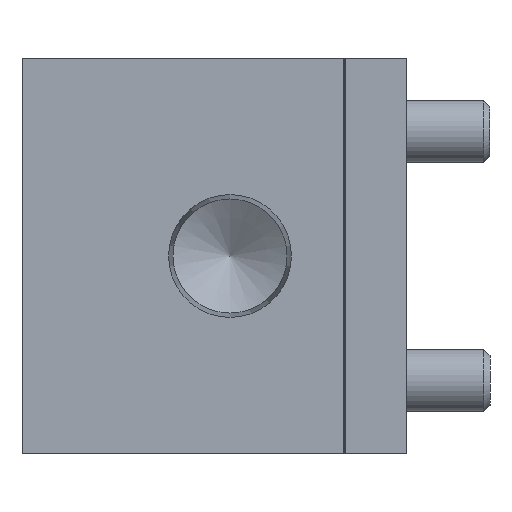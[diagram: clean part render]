
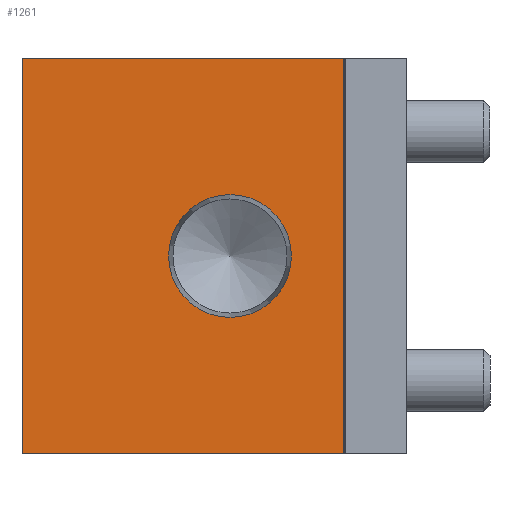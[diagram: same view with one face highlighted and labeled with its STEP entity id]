
A CAD part, left-side view. The second image highlights one B-rep face of the part: STEP entity #1261.
In plain terms, the highlighted planar face has unit normal (-1, 0, 0).
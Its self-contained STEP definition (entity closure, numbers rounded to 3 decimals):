
#1261 = ADVANCED_FACE( '', ( #2773, #2774 ), #2775, .F. );
#2773 = FACE_BOUND( '', #4532, .T. );
#2774 = FACE_OUTER_BOUND( '', #4533, .T. );
#2775 = PLANE( '', #4534 );
#4532 = EDGE_LOOP( '', ( #7483 ) );
#4533 = EDGE_LOOP( '', ( #7484, #7485, #7486, #7487 ) );
#4534 = AXIS2_PLACEMENT_3D( '', #7488, #7489, #7490 );
#7483 = ORIENTED_EDGE( '', *, *, #10261, .T. );
#7484 = ORIENTED_EDGE( '', *, *, #10262, .T. );
#7485 = ORIENTED_EDGE( '', *, *, #10066, .F. );
#7486 = ORIENTED_EDGE( '', *, *, #9913, .F. );
#7487 = ORIENTED_EDGE( '', *, *, #10263, .T. );
#7488 = CARTESIAN_POINT( '', ( 0., 37., 19. ) );
#7489 = DIRECTION( '', ( 1., 0., 0. ) );
#7490 = DIRECTION( '', ( 0., 0., -1. ) );
#9913 = EDGE_CURVE( '', #11793, #11079, #11794, .T. );
#10066 = EDGE_CURVE( '', #11079, #12007, #12008, .T. );
#10261 = EDGE_CURVE( '', #12281, #12281, #12282, .T. );
#10262 = EDGE_CURVE( '', #12283, #12007, #12284, .T. );
#10263 = EDGE_CURVE( '', #11793, #12283, #12285, .T. );
#11079 = VERTEX_POINT( '', #13273 );
#11793 = VERTEX_POINT( '', #14210 );
#11794 = LINE( '', #14211, #14212 );
#12007 = VERTEX_POINT( '', #14472 );
#12008 = LINE( '', #14473, #14474 );
#12281 = VERTEX_POINT( '', #14836 );
#12282 = CIRCLE( '', #14837, 5.91 );
#12283 = VERTEX_POINT( '', #14838 );
#12284 = LINE( '', #14839, #14840 );
#12285 = LINE( '', #14841, #14842 );
#13273 = CARTESIAN_POINT( '', ( 0., 6.1, 19. ) );
#14210 = CARTESIAN_POINT( '', ( 0., 37., 19. ) );
#14211 = CARTESIAN_POINT( '', ( 0., 37., 19. ) );
#14212 = VECTOR( '', #16299, 1000. );
#14472 = CARTESIAN_POINT( '', ( 0., 6.1, -19. ) );
#14473 = CARTESIAN_POINT( '', ( 0., 6.1, 19. ) );
#14474 = VECTOR( '', #16500, 1000. );
#14836 = CARTESIAN_POINT( '', ( 0., 17., -5.91 ) );
#14837 = AXIS2_PLACEMENT_3D( '', #16719, #16720, #16721 );
#14838 = CARTESIAN_POINT( '', ( 0., 37., -19. ) );
#14839 = CARTESIAN_POINT( '', ( 0., 37., -19. ) );
#14840 = VECTOR( '', #16722, 1000. );
#14841 = CARTESIAN_POINT( '', ( 0., 37., 19. ) );
#14842 = VECTOR( '', #16723, 1000. );
#16299 = DIRECTION( '', ( 0., -1., 0. ) );
#16500 = DIRECTION( '', ( 0., 0., -1. ) );
#16719 = CARTESIAN_POINT( '', ( 0., 17., 0. ) );
#16720 = DIRECTION( '', ( 1., 0., 0. ) );
#16721 = DIRECTION( '', ( 0., 0., -1. ) );
#16722 = DIRECTION( '', ( 0., -1., 0. ) );
#16723 = DIRECTION( '', ( 0., 0., -1. ) );
